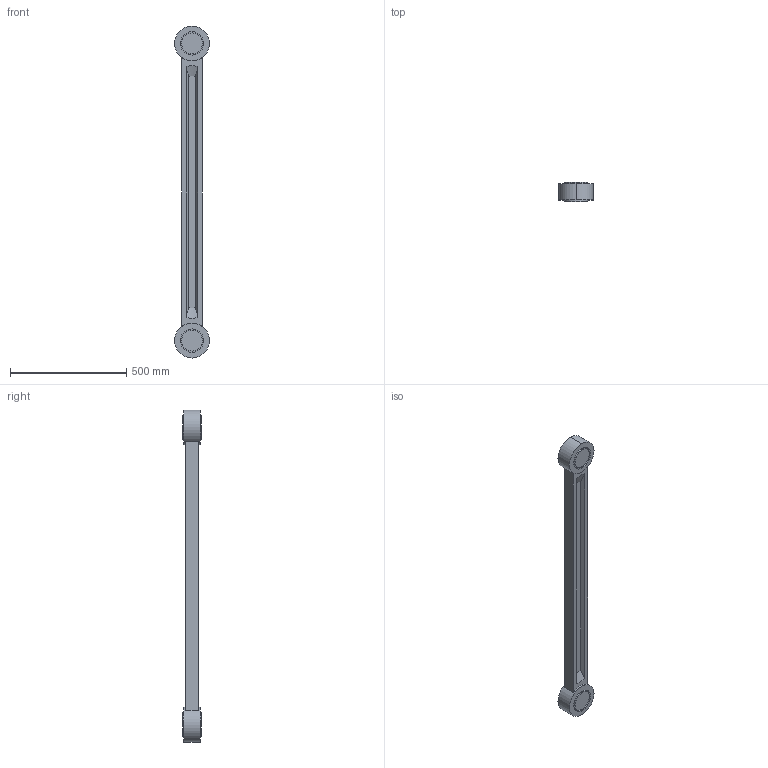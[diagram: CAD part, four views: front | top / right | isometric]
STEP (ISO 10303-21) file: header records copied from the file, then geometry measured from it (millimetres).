
FILE_DESCRIPTION (( 'STEP AP214' ), '1' );
FILE_NAME ('IRB760_445-318_linkrod_CAD_rev00.STEP', '2020-01-31T12:19:49', ( '' ), ( '' ), 'SwSTEP 2.0', 'SolidWorks 2018', '' );
FILE_SCHEMA (( 'AUTOMOTIVE_DESIGN' ));
Length unit declared in the file: millimetre
Products named in the file (2): IRB760_445-318_linkrod_CAD_rev00
Bounding box: 150 x 80 x 1430 mm (x, y, z)
Volume: 6761684.1 mm3; surface area: 499900.9 mm2
Topology: 1 solids, 1 shells, 46 faces, 102 edges, 68 vertices
Faces by surface type: plane 22, cylinder 20, bspline 4
Entity records: 1861 total; most frequent: CARTESIAN_POINT 270, DIRECTION 230, ORIENTED_EDGE 204, EDGE_CURVE 102, AXIS2_PLACEMENT_3D 92, VERTEX_POINT 68, EDGE_LOOP 56, UNCERTAINTY_MEASURE_WITH_UNIT 49
